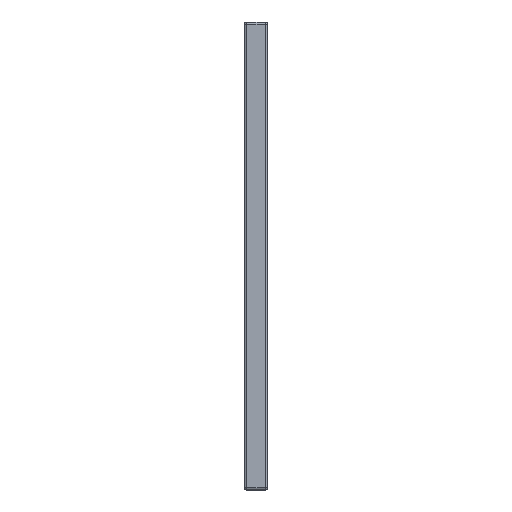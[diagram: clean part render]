
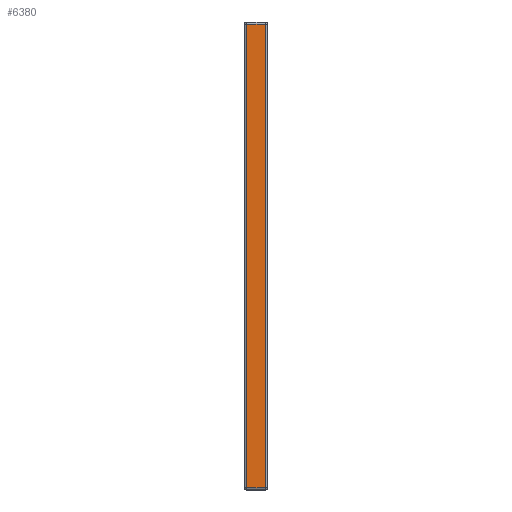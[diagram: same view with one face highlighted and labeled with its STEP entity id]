
A CAD part, left-side view. The second image highlights one B-rep face of the part: STEP entity #6380.
In plain terms, the highlighted planar face has unit normal (-1, 0, 0).
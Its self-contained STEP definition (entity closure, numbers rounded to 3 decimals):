
#393 = DIRECTION ( 'NONE',  ( 1., 0., 0. ) ) ;
#1017 = LINE ( 'NONE', #18085, #6303 ) ;
#2666 = EDGE_LOOP ( 'NONE', ( #19945, #25999, #3299, #21381 ) ) ;
#2719 = VERTEX_POINT ( 'NONE', #20337 ) ;
#2853 = EDGE_CURVE ( 'NONE', #24804, #7815, #1017, .T. ) ;
#3299 = ORIENTED_EDGE ( 'NONE', *, *, #5673, .T. ) ;
#5673 = EDGE_CURVE ( 'NONE', #7784, #24804, #24498, .T. ) ;
#5900 = LINE ( 'NONE', #9843, #17238 ) ;
#6303 = VECTOR ( 'NONE', #29410, 1000. ) ;
#6380 = ADVANCED_FACE ( 'NONE', ( #21953 ), #13936, .F. ) ;
#7784 = VERTEX_POINT ( 'NONE', #10994 ) ;
#7815 = VERTEX_POINT ( 'NONE', #22436 ) ;
#8617 = DIRECTION ( 'NONE',  ( 0., -1., 0. ) ) ;
#9284 = CARTESIAN_POINT ( 'NONE',  ( -100., 1., -100. ) ) ;
#9843 = CARTESIAN_POINT ( 'NONE',  ( -100., 9., -100. ) ) ;
#10006 = EDGE_CURVE ( 'NONE', #2719, #7784, #20146, .T. ) ;
#10912 = VECTOR ( 'NONE', #8617, 1000. ) ;
#10994 = CARTESIAN_POINT ( 'NONE',  ( -100., 1., -99. ) ) ;
#11549 = CARTESIAN_POINT ( 'NONE',  ( -100., 10., -100. ) ) ;
#13096 = VECTOR ( 'NONE', #20589, 1000. ) ;
#13936 = PLANE ( 'NONE',  #21003 ) ;
#14329 = EDGE_CURVE ( 'NONE', #7815, #2719, #5900, .T. ) ;
#16214 = DIRECTION ( 'NONE',  ( 0., 0., -1. ) ) ;
#16784 = DIRECTION ( 'NONE',  ( 0., 0., -1. ) ) ;
#17238 = VECTOR ( 'NONE', #16784, 1000. ) ;
#18085 = CARTESIAN_POINT ( 'NONE',  ( -100., 10., 99. ) ) ;
#19945 = ORIENTED_EDGE ( 'NONE', *, *, #14329, .T. ) ;
#20146 = LINE ( 'NONE', #24509, #10912 ) ;
#20337 = CARTESIAN_POINT ( 'NONE',  ( -100., 9., -99. ) ) ;
#20589 = DIRECTION ( 'NONE',  ( 0., 0., 1. ) ) ;
#21003 = AXIS2_PLACEMENT_3D ( 'NONE', #11549, #393, #16214 ) ;
#21381 = ORIENTED_EDGE ( 'NONE', *, *, #2853, .T. ) ;
#21953 = FACE_OUTER_BOUND ( 'NONE', #2666, .T. ) ;
#22436 = CARTESIAN_POINT ( 'NONE',  ( -100., 9., 99. ) ) ;
#24498 = LINE ( 'NONE', #9284, #13096 ) ;
#24509 = CARTESIAN_POINT ( 'NONE',  ( -100., 10., -99. ) ) ;
#24804 = VERTEX_POINT ( 'NONE', #29040 ) ;
#25999 = ORIENTED_EDGE ( 'NONE', *, *, #10006, .T. ) ;
#29040 = CARTESIAN_POINT ( 'NONE',  ( -100., 1., 99. ) ) ;
#29410 = DIRECTION ( 'NONE',  ( 0., 1., 0. ) ) ;
